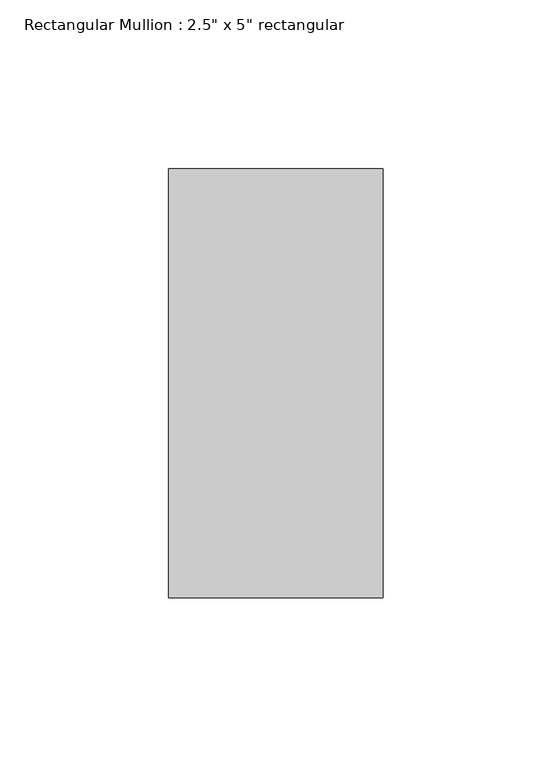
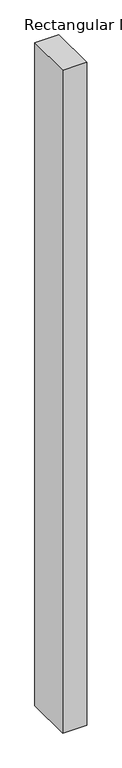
"""IFC4 building model written with IfcOpenShell, lengths in millimetres: member geometry."""

from ifc_helpers import new_model, si_unit, frame, origin, place, context, project, spatial, polyline, outline, extrude, source, transform, mapped, element, save


def member_d73967ec(model_context):
    return source(origin(), model_context, "Body", "SweptSolid", [
        extrude(outline(polyline([(31.75, 63.5), (31.75, -63.5), (-31.75, -63.5), (-31.75, 63.5), (31.75, 63.5)])), frame((0.0, 0.0, -1854.2), z_axis=(0.0, 0.0, 1.0), x_axis=(1.0, 0.0, 0.0)), (0.0, 0.0, 1.0), 1854.2),
    ])


if __name__ == "__main__":
    model = new_model("IFC4")
    model_context = context("Model", 3, world=origin())
    ifc_project = project(units=[si_unit("LENGTHUNIT", "METRE", prefix="MILLI")], contexts=[model_context])
    site = spatial("IfcSite", under=ifc_project)
    building = spatial("IfcBuilding", under=site)
    placement = place(None, origin())
    member_shape = member_d73967ec(model_context)
    element("IfcMember", 1, ObjectType="Rectangular Mullion : 2.5\" x 5\" rectangular", at=placement, inside=building, context=model_context, shape_type="MappedRepresentation", body=[
        mapped(member_shape, transform((0.0, 0.0, 0.0), x_axis=(1.0, 0.0, 0.0), y_axis=(0.0, 1.0, 0.0), z_axis=(0.0, 0.0, 1.0))),
    ])
    save(model, "model.ifc")
